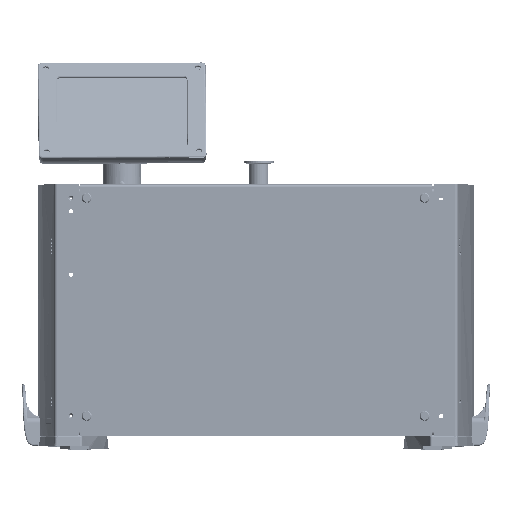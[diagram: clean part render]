
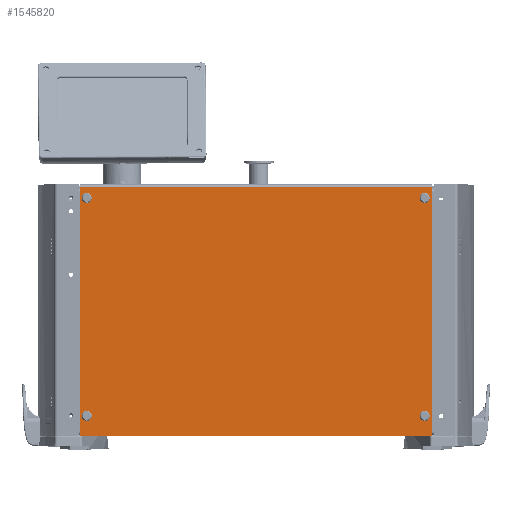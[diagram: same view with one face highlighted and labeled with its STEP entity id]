
A CAD part, top view. The second image highlights one B-rep face of the part: STEP entity #1545820.
In plain terms, the highlighted planar face has unit normal (0, 0, 1).
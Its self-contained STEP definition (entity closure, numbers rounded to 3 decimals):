
#1544650=CARTESIAN_POINT('',(-87.83,-17.521,
692.54));
#1544660=DIRECTION('',(0.,0.,1.));
#1544670=DIRECTION('',(1.,0.,0.));
#1544680=AXIS2_PLACEMENT_3D('',#1544650,#1544660,#1544670);
#1544690=PLANE('',#1544680);
#1544700=CARTESIAN_POINT('',(138.265,132.827,
692.54));
#1544710=DIRECTION('',(0.,0.,-1.));
#1544720=DIRECTION('',(-1.,0.,0.))
;
#1544730=AXIS2_PLACEMENT_3D('',#1544700,#1544710,#1544720);
#1544740=CIRCLE('',#1544730,4.);
#1544750=CARTESIAN_POINT('',(134.265,132.827,
692.54));
#1544760=VERTEX_POINT('',#1544750);
#1544770=CARTESIAN_POINT('',(142.265,132.827,
692.54));
#1544780=VERTEX_POINT('',#1544770);
#1544790=EDGE_CURVE('',#1544760,#1544780,#1544740,.T.);
#1544800=ORIENTED_EDGE('',*,*,#1544790,.T.);
#1544810=EDGE_CURVE('',#1544780,#1544760,#1544740,.T.);
#1544820=ORIENTED_EDGE('',*,*,#1544810,.T.);
#1544830=EDGE_LOOP('',(#1544820,#1544800));
#1544840=FACE_BOUND('',#1544830,.T.);
#1544850=CARTESIAN_POINT('',(-314.596,132.827,
692.54));
#1544860=DIRECTION('',(0.,0.,-1.));
#1544870=DIRECTION('',(-1.,0.,0.))
;
#1544880=AXIS2_PLACEMENT_3D('',#1544850,#1544860,#1544870);
#1544890=CIRCLE('',#1544880,4.);
#1544900=CARTESIAN_POINT('',(-318.596,132.827,
692.54));
#1544910=VERTEX_POINT('',#1544900);
#1544920=CARTESIAN_POINT('',(-310.596,132.827,
692.54));
#1544930=VERTEX_POINT('',#1544920);
#1544940=EDGE_CURVE('',#1544910,#1544930,#1544890,.T.);
#1544950=ORIENTED_EDGE('',*,*,#1544940,.T.);
#1544960=EDGE_CURVE('',#1544930,#1544910,#1544890,.T.);
#1544970=ORIENTED_EDGE('',*,*,#1544960,.T.);
#1544980=EDGE_LOOP('',(#1544970,#1544950));
#1544990=FACE_BOUND('',#1544980,.T.);
#1545000=CARTESIAN_POINT('',(138.265,-159.144,
692.54));
#1545010=DIRECTION('',(0.,0.,-1.));
#1545020=DIRECTION('',(-0.993,0.116,
0.));
#1545030=AXIS2_PLACEMENT_3D('',#1545000,#1545010,#1545020);
#1545040=CIRCLE('',#1545030,4.);
#1545050=CARTESIAN_POINT('',(134.292,-158.68,
692.54));
#1545060=VERTEX_POINT('',#1545050);
#1545070=CARTESIAN_POINT('',(142.238,-159.609,
692.54));
#1545080=VERTEX_POINT('',#1545070);
#1545090=EDGE_CURVE('',#1545060,#1545080,#1545040,.T.);
#1545100=ORIENTED_EDGE('',*,*,#1545090,.T.);
#1545110=EDGE_CURVE('',#1545080,#1545060,#1545040,.T.);
#1545120=ORIENTED_EDGE('',*,*,#1545110,.T.);
#1545130=EDGE_LOOP('',(#1545120,#1545100));
#1545140=FACE_BOUND('',#1545130,.T.);
#1545150=CARTESIAN_POINT('',(-314.596,-159.144,
692.54));
#1545160=DIRECTION('',(0.,0.,1.));
#1545170=DIRECTION('',(1.,0.,0.));
#1545180=AXIS2_PLACEMENT_3D('',#1545150,#1545160,#1545170);
#1545190=CIRCLE('',#1545180,4.);
#1545200=CARTESIAN_POINT('',(-310.596,-159.144,
692.54));
#1545210=VERTEX_POINT('',#1545200);
#1545220=CARTESIAN_POINT('',(-318.596,-159.144,
692.54));
#1545230=VERTEX_POINT('',#1545220);
#1545240=EDGE_CURVE('',#1545210,#1545230,#1545190,.T.);
#1545250=ORIENTED_EDGE('',*,*,#1545240,.F.);
#1545260=EDGE_CURVE('',#1545230,#1545210,#1545190,.T.);
#1545270=ORIENTED_EDGE('',*,*,#1545260,.F.);
#1545280=EDGE_LOOP('',(#1545270,#1545250));
#1545290=FACE_BOUND('',#1545280,.T.);
#1545300=CARTESIAN_POINT('',(-322.235,-184.068,
692.54));
#1545310=DIRECTION('',(0.,0.,-1.));
#1545320=DIRECTION('',(1.,0.,0.));
#1545330=AXIS2_PLACEMENT_3D('',#1545300,#1545310,#1545320);
#1545340=CIRCLE('',#1545330,2.);
#1545350=CARTESIAN_POINT('',(-322.235,-186.068,
692.54));
#1545360=VERTEX_POINT('',#1545350);
#1545370=CARTESIAN_POINT('',(-324.235,-184.068,
692.54));
#1545380=VERTEX_POINT('',#1545370);
#1545390=EDGE_CURVE('',#1545360,#1545380,#1545340,.T.);
#1545400=ORIENTED_EDGE('',*,*,#1545390,.F.);
#1545410=CARTESIAN_POINT('',(-324.235,-17.521,
692.54));
#1545420=DIRECTION('',(0.,-1.,0.));
#1545430=VECTOR('',#1545420,1.);
#1545440=LINE('',#1545410,#1545430);
#1545450=CARTESIAN_POINT('',(-324.235,147.027,
692.54));
#1545460=VERTEX_POINT('',#1545450);
#1545470=EDGE_CURVE('',#1545460,#1545380,#1545440,.T.);
#1545480=ORIENTED_EDGE('',*,*,#1545470,.T.);
#1545490=CARTESIAN_POINT('',(148.575,147.027,
692.54));
#1545500=DIRECTION('',(1.,0.,0.));
#1545510=VECTOR('',#1545500,1.);
#1545520=LINE('',#1545490,#1545510);
#1545530=CARTESIAN_POINT('',(148.575,147.027,
692.54));
#1545540=VERTEX_POINT('',#1545530);
#1545550=EDGE_CURVE('',#1545460,#1545540,#1545520,.T.);
#1545560=ORIENTED_EDGE('',*,*,#1545550,.F.);
#1545570=CARTESIAN_POINT('',(148.575,-17.521,
692.54));
#1545580=DIRECTION('',(0.,1.,0.));
#1545590=VECTOR('',#1545580,1.);
#1545600=LINE('',#1545570,#1545590);
#1545610=CARTESIAN_POINT('',(148.575,-184.068,
692.54));
#1545620=VERTEX_POINT('',#1545610);
#1545630=EDGE_CURVE('',#1545620,#1545540,#1545600,.T.);
#1545640=ORIENTED_EDGE('',*,*,#1545630,.T.);
#1545650=CARTESIAN_POINT('',(146.575,-184.068,
692.54));
#1545660=DIRECTION('',(0.,0.,1.));
#1545670=DIRECTION('',(1.,0.,0.));
#1545680=AXIS2_PLACEMENT_3D('',#1545650,#1545660,#1545670);
#1545690=CIRCLE('',#1545680,2.);
#1545700=CARTESIAN_POINT('',(146.575,-186.068,
692.54));
#1545710=VERTEX_POINT('',#1545700);
#1545720=EDGE_CURVE('',#1545710,#1545620,#1545690,.T.);
#1545730=ORIENTED_EDGE('',*,*,#1545720,.T.);
#1545740=CARTESIAN_POINT('',(543.95,-186.068,
692.54));
#1545750=DIRECTION('',(1.,0.,0.));
#1545760=VECTOR('',#1545750,1.);
#1545770=LINE('',#1545740,#1545760);
#1545780=EDGE_CURVE('',#1545360,#1545710,#1545770,.T.);
#1545790=ORIENTED_EDGE('',*,*,#1545780,.T.);
#1545800=EDGE_LOOP('',(#1545790,#1545730,#1545640,#1545560,#1545480,
#1545400));
#1545810=FACE_OUTER_BOUND('',#1545800,.T.);
#1545820=ADVANCED_FACE('',(#1544840,#1544990,#1545140,#1545290,#1545810)
,#1544690,.T.);
